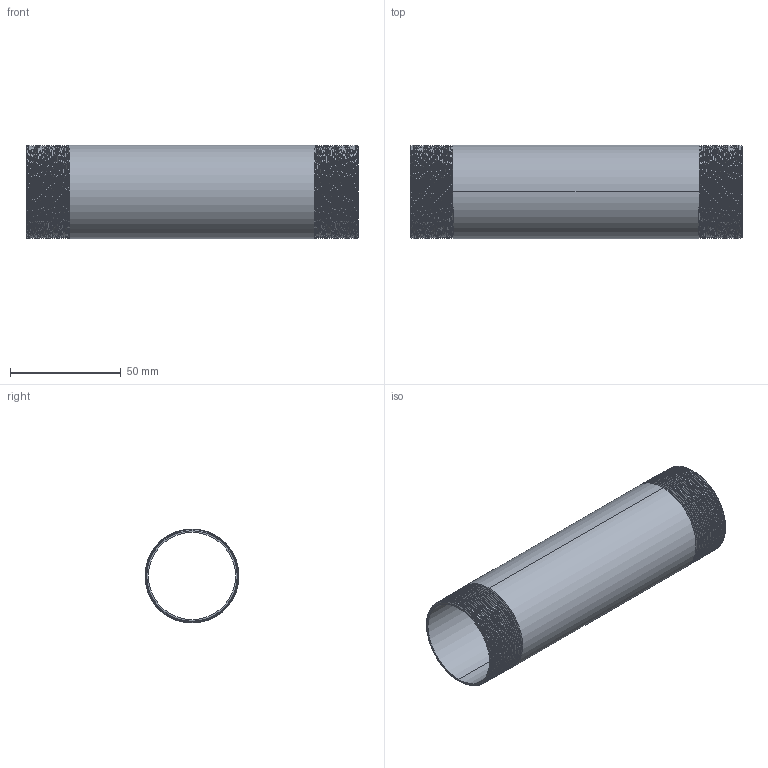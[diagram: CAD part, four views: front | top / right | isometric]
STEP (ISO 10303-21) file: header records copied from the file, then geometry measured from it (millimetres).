
FILE_DESCRIPTION (( 'STEP AP203' ), '1' );
FILE_NAME ('3D_R210_1 1-4x150_17185160.STEP', '2024-08-16T10:41:33', ( '' ), ( '' ), 'SwSTEP 2.0', 'SolidWorks 2024', '' );
FILE_SCHEMA (( 'CONFIG_CONTROL_DESIGN' ));
Length unit declared in the file: millimetre
Products named in the file (1): 3D_R210_1 1-4x150_17185160
Bounding box: 150 x 42.39 x 42.4 mm (x, y, z)
Volume: 27283.2 mm3; surface area: 41360.6 mm2
Topology: 1 solids, 1 shells, 96 faces, 274 edges, 180 vertices
Faces by surface type: cone 82, bspline 6, cylinder 4, plane 4
Entity records: 17557 total; most frequent: CARTESIAN_POINT 15327, ORIENTED_EDGE 548, DIRECTION 302, EDGE_CURVE 274, VERTEX_POINT 180, B_SPLINE_CURVE_WITH_KNOTS 160, AXIS2_PLACEMENT_3D 105, EDGE_LOOP 98
